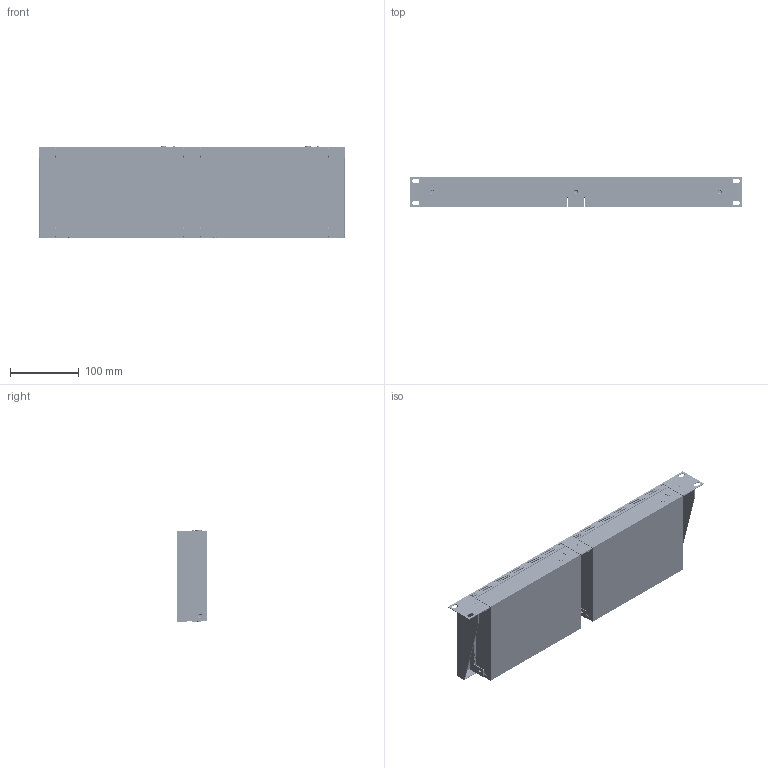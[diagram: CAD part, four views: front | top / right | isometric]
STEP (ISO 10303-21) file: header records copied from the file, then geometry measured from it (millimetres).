
FILE_DESCRIPTION (( 'STEP AP214' ), '1' );
FILE_NAME ('FG-901651-3D (RACK MOUNT).STEP', '2026-05-19T19:58:57', ( '' ), ( '' ), 'SwSTEP 2.0', 'SolidWorks 2023', '' );
FILE_SCHEMA (( 'AUTOMOTIVE_DESIGN' ));
Length unit declared in the file: millimetre
Products named in the file (4): FG-3D_DECODER; FG-901651-3D (RACK MOUNT); CH-008359-02; FG
Assembly tree (7 placements, depth 2):
  FG-901651-3D (RACK MOUNT)
    FG-3D_DECODER  x2
    CH-008359-02  x4
    FG
Bounding box: 482.48 x 43.63 x 133.8 mm (x, y, z)
Volume: 1581221.7 mm3; surface area: 345847.3 mm2
Topology: 13 solids, 13 shells, 4589 faces, 9538 edges, 6348 vertices
Faces by surface type: cylinder 2830, plane 1721, cone 38
Entity records: 69558 total; most frequent: DIRECTION 13623, CARTESIAN_POINT 11372, ORIENTED_EDGE 10562, AXIS2_PLACEMENT_3D 5769, EDGE_CURVE 5281, VERTEX_POINT 3518, EDGE_LOOP 3367, CIRCLE 3196
